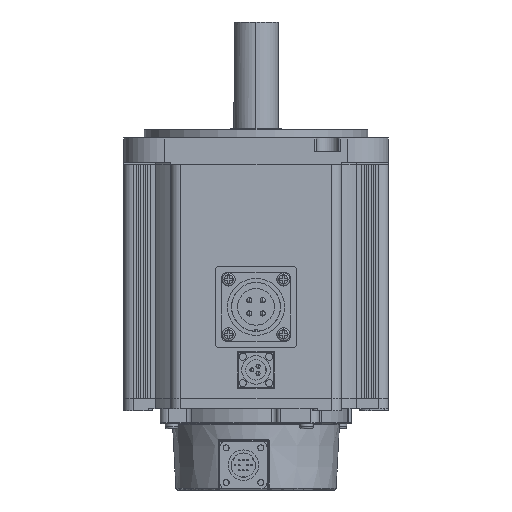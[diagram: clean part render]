
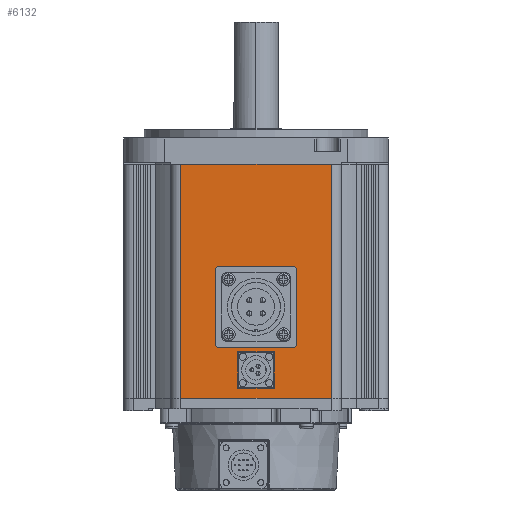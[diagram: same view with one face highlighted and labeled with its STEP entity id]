
A CAD part, front view. The second image highlights one B-rep face of the part: STEP entity #6132.
In plain terms, the highlighted planar face has unit normal (0, -1, 0) as drawn and (0, 1, 0) by its records, which use the part's own axes.
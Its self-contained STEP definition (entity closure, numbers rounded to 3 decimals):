
#111 = DIRECTION ( 'NONE',  ( 0., 1., 0. ) ) ;
#454 = ORIENTED_EDGE ( 'NONE', *, *, #14333, .F. ) ;
#671 = VECTOR ( 'NONE', #1777, 1000. ) ;
#996 = AXIS2_PLACEMENT_3D ( 'NONE', #16080, #24337, #3855 ) ;
#1710 = VERTEX_POINT ( 'NONE', #15839 ) ;
#1777 = DIRECTION ( 'NONE',  ( -1., 0., 0. ) ) ;
#2005 = CARTESIAN_POINT ( 'NONE',  ( 5., 65., 14. ) ) ;
#2264 = DIRECTION ( 'NONE',  ( -1., 0., 0. ) ) ;
#3029 = CARTESIAN_POINT ( 'NONE',  ( 37., 65., 0. ) ) ;
#3287 = LINE ( 'NONE', #18304, #16504 ) ;
#3548 = VERTEX_POINT ( 'NONE', #8660 ) ;
#3855 = DIRECTION ( 'NONE',  ( 1., 0., 0. ) ) ;
#5063 = CARTESIAN_POINT ( 'NONE',  ( 0., 65., 14. ) ) ;
#5206 = CIRCLE ( 'NONE', #8390, 5. ) ;
#5302 = EDGE_LOOP ( 'NONE', ( #15466, #18176 ) ) ;
#5939 = VERTEX_POINT ( 'NONE', #3029 ) ;
#6001 = PLANE ( 'NONE',  #996 ) ;
#6132 = ADVANCED_FACE ( 'NONE', ( #28635, #14094, #26472 ), #6001, .F. ) ;
#6233 = VERTEX_POINT ( 'NONE', #2005 ) ;
#7204 = DIRECTION ( 'NONE',  ( -1., 0., 0. ) ) ;
#7851 = EDGE_LOOP ( 'NONE', ( #26481, #29761, #32042, #23028 ) ) ;
#8390 = AXIS2_PLACEMENT_3D ( 'NONE', #30381, #10091, #23884 ) ;
#8660 = CARTESIAN_POINT ( 'NONE',  ( 5., 65., 45. ) ) ;
#9858 = ORIENTED_EDGE ( 'NONE', *, *, #23518, .F. ) ;
#10091 = DIRECTION ( 'NONE',  ( 0., 1., 0. ) ) ;
#11763 = DIRECTION ( 'NONE',  ( 0., 0., -1. ) ) ;
#11777 = AXIS2_PLACEMENT_3D ( 'NONE', #5063, #29532, #2264 ) ;
#12853 = CIRCLE ( 'NONE', #11777, 5. ) ;
#12988 = CARTESIAN_POINT ( 'NONE',  ( -37., 65., 115. ) ) ;
#13769 = LINE ( 'NONE', #23824, #15728 ) ;
#14003 = EDGE_CURVE ( 'NONE', #1710, #20001, #3287, .T. ) ;
#14094 = FACE_BOUND ( 'NONE', #5302, .T. ) ;
#14104 = EDGE_CURVE ( 'NONE', #5939, #20610, #21772, .T. ) ;
#14333 = EDGE_CURVE ( 'NONE', #15368, #6233, #12853, .T. ) ;
#14407 = CIRCLE ( 'NONE', #28098, 5. ) ;
#15368 = VERTEX_POINT ( 'NONE', #17548 ) ;
#15466 = ORIENTED_EDGE ( 'NONE', *, *, #19627, .F. ) ;
#15728 = VECTOR ( 'NONE', #11763, 1000. ) ;
#15839 = CARTESIAN_POINT ( 'NONE',  ( 37., 65., 115. ) ) ;
#16080 = CARTESIAN_POINT ( 'NONE',  ( -37., 65., 115. ) ) ;
#16160 = CARTESIAN_POINT ( 'NONE',  ( -37., 65., 0. ) ) ;
#16504 = VECTOR ( 'NONE', #18002, 1000. ) ;
#16552 = EDGE_CURVE ( 'NONE', #3548, #30340, #23212, .T. ) ;
#17456 = LINE ( 'NONE', #12988, #30982 ) ;
#17548 = CARTESIAN_POINT ( 'NONE',  ( -5., 65., 14. ) ) ;
#17819 = EDGE_LOOP ( 'NONE', ( #454, #9858 ) ) ;
#18002 = DIRECTION ( 'NONE',  ( -1., 0., 0. ) ) ;
#18176 = ORIENTED_EDGE ( 'NONE', *, *, #16552, .F. ) ;
#18198 = CARTESIAN_POINT ( 'NONE',  ( 0., 65., 45. ) ) ;
#18304 = CARTESIAN_POINT ( 'NONE',  ( -37., 65., 115. ) ) ;
#19519 = CARTESIAN_POINT ( 'NONE',  ( -37., 65., 115. ) ) ;
#19627 = EDGE_CURVE ( 'NONE', #30340, #3548, #14407, .T. ) ;
#20001 = VERTEX_POINT ( 'NONE', #19519 ) ;
#20610 = VERTEX_POINT ( 'NONE', #31331 ) ;
#21772 = LINE ( 'NONE', #16160, #671 ) ;
#22986 = DIRECTION ( 'NONE',  ( -1., 0., 0. ) ) ;
#23028 = ORIENTED_EDGE ( 'NONE', *, *, #28739, .T. ) ;
#23212 = CIRCLE ( 'NONE', #30088, 5. ) ;
#23518 = EDGE_CURVE ( 'NONE', #6233, #15368, #5206, .T. ) ;
#23824 = CARTESIAN_POINT ( 'NONE',  ( 37., 65., 115. ) ) ;
#23884 = DIRECTION ( 'NONE',  ( -1., 0., 0. ) ) ;
#24337 = DIRECTION ( 'NONE',  ( 0., -1., 0. ) ) ;
#24547 = EDGE_CURVE ( 'NONE', #20001, #20610, #17456, .T. ) ;
#24889 = CARTESIAN_POINT ( 'NONE',  ( 0., 65., 45. ) ) ;
#25163 = CARTESIAN_POINT ( 'NONE',  ( -5., 65., 45. ) ) ;
#26472 = FACE_OUTER_BOUND ( 'NONE', #7851, .T. ) ;
#26481 = ORIENTED_EDGE ( 'NONE', *, *, #14104, .T. ) ;
#27844 = DIRECTION ( 'NONE',  ( 0., 0., -1. ) ) ;
#28098 = AXIS2_PLACEMENT_3D ( 'NONE', #18198, #28274, #22986 ) ;
#28274 = DIRECTION ( 'NONE',  ( 0., 1., 0. ) ) ;
#28635 = FACE_BOUND ( 'NONE', #17819, .T. ) ;
#28739 = EDGE_CURVE ( 'NONE', #1710, #5939, #13769, .T. ) ;
#29532 = DIRECTION ( 'NONE',  ( 0., 1., 0. ) ) ;
#29761 = ORIENTED_EDGE ( 'NONE', *, *, #24547, .F. ) ;
#30088 = AXIS2_PLACEMENT_3D ( 'NONE', #24889, #111, #7204 ) ;
#30340 = VERTEX_POINT ( 'NONE', #25163 ) ;
#30381 = CARTESIAN_POINT ( 'NONE',  ( 0., 65., 14. ) ) ;
#30982 = VECTOR ( 'NONE', #27844, 1000. ) ;
#31331 = CARTESIAN_POINT ( 'NONE',  ( -37., 65., 0. ) ) ;
#32042 = ORIENTED_EDGE ( 'NONE', *, *, #14003, .F. ) ;
